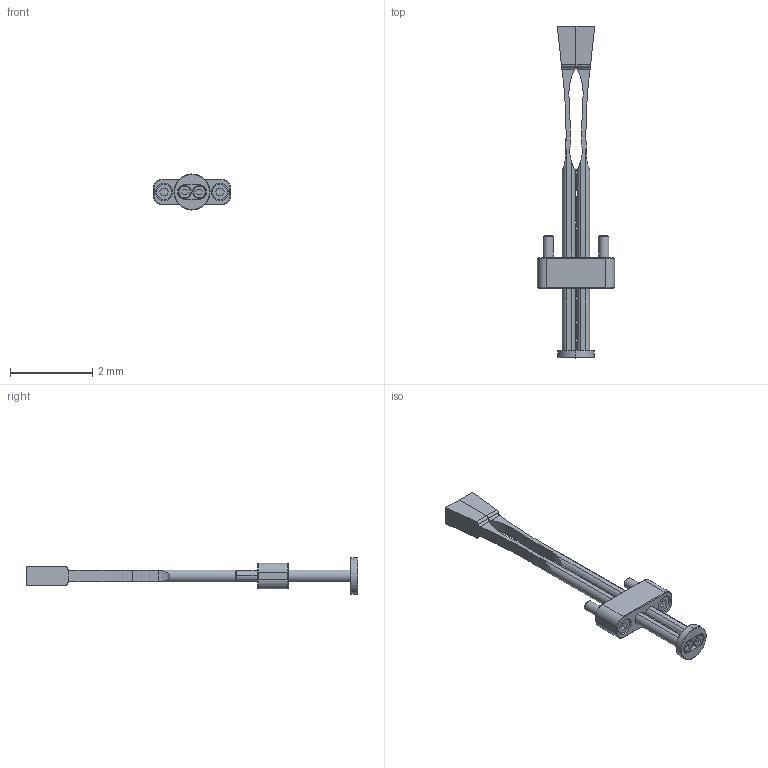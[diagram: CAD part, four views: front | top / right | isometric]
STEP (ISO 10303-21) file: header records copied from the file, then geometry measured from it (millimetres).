
FILE_DESCRIPTION((''),'2;1');
FILE_NAME('FCDA45X48L7.stp','2002-08-31T08:08:02',(''),(''),'AutoCAD STEP 2000i','AutoCAD 2000i',', , ');
FILE_SCHEMA(('CONFIG_CONTROL_DESIGN'));
Length unit declared in the file: millimetre
Products named in the file (1): FCDA45X48L7
Bounding box: 1.88 x 8.06 x 0.88 mm (x, y, z)
Volume: 2.1 mm3; surface area: 32.3 mm2
Topology: 8 solids, 8 shells, 193 faces, 464 edges, 296 vertices
Faces by surface type: plane 75, cylinder 63, bspline 29, cone 22, torus 4
Entity records: 6668 total; most frequent: CARTESIAN_POINT 2059, DIRECTION 952, ORIENTED_EDGE 920, EDGE_CURVE 460, AXIS2_PLACEMENT_3D 347, VERTEX_POINT 296, VECTOR 258, LINE 258
